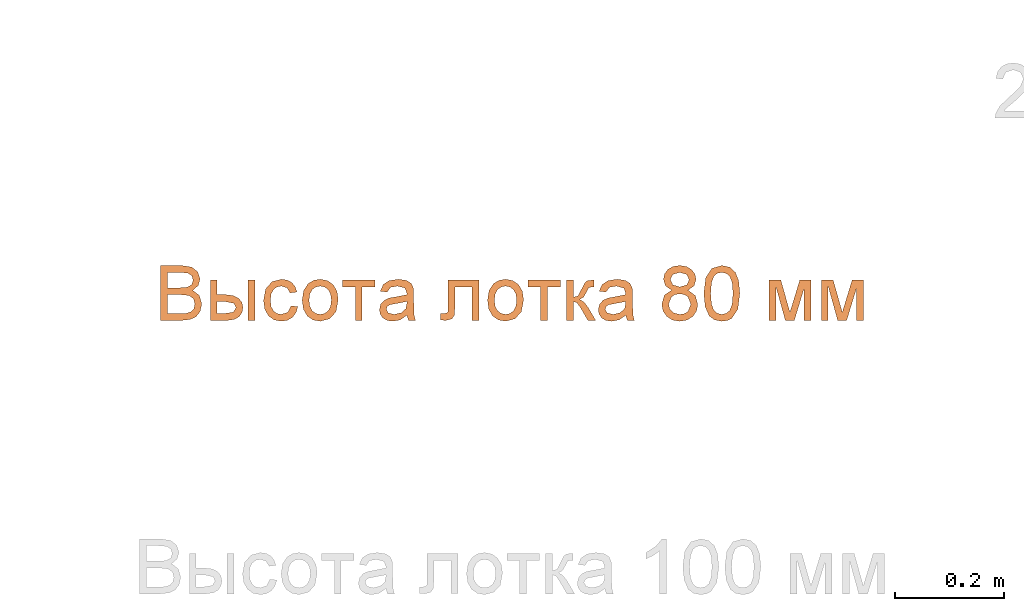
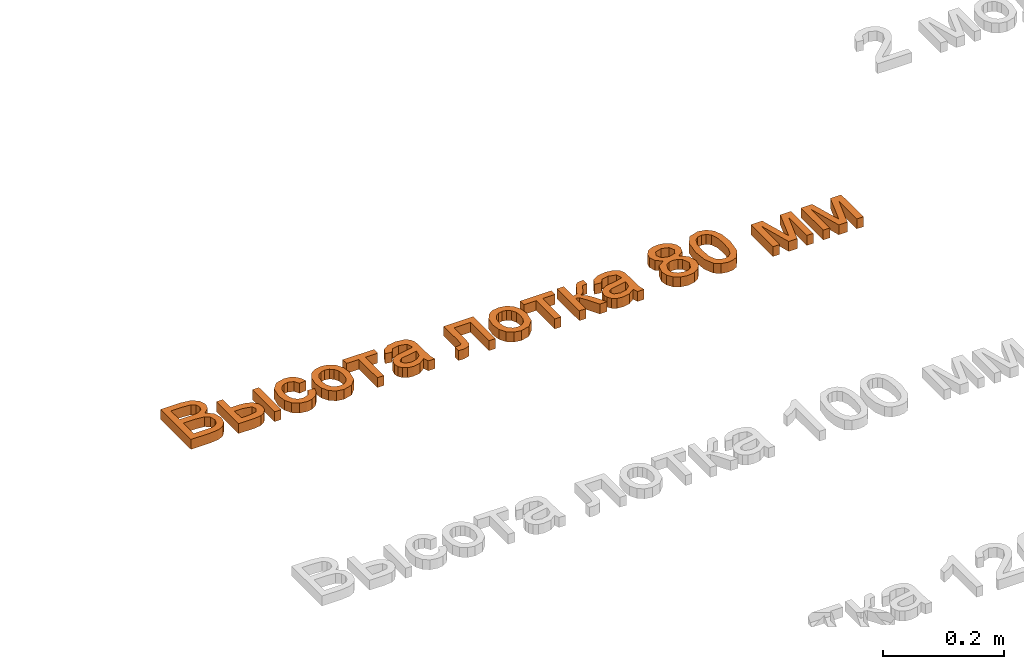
# One storey, part 20 of 71: 1 proxy.
"""IFC2X3 building model written with IfcOpenShell, lengths in millimetres."""

from ifc_helpers import new_model, entity, si_unit, converted_unit, derived_unit, direction, frame, frame_2d, origin, place, context, subcontext, project, spatial, polyline, rectangle, outline, extrude, element, save


model = new_model("IFC2X3")

# Units and contexts
model_context = context("Model", 3, precision=0.01, world=origin(), true_north=direction((6.12303176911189e-17, 1.0)))
body_context = subcontext(model_context, "Body", "Model", "MODEL_VIEW")
ifc_project = project(units=[si_unit("LENGTHUNIT", "METRE", prefix="MILLI"), si_unit("AREAUNIT", "SQUARE_METRE"), si_unit("VOLUMEUNIT", "CUBIC_METRE"), converted_unit("PLANEANGLEUNIT", "DEGREE", entity("IfcRatioMeasure", 0.0174532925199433), si_unit("PLANEANGLEUNIT", "RADIAN"), dimensions=[0, 0, 0, 0, 0, 0, 0]), si_unit("MASSUNIT", "GRAM", prefix="KILO"), derived_unit("MASSDENSITYUNIT", [(si_unit("MASSUNIT", "GRAM", prefix="KILO"), 1), (si_unit("LENGTHUNIT", "METRE"), -3)]), si_unit("TIMEUNIT", "SECOND"), si_unit("FREQUENCYUNIT", "HERTZ"), si_unit("THERMODYNAMICTEMPERATUREUNIT", "DEGREE_CELSIUS"), derived_unit("THERMALTRANSMITTANCEUNIT", [(si_unit("MASSUNIT", "GRAM", prefix="KILO"), 1), (si_unit("THERMODYNAMICTEMPERATUREUNIT", "KELVIN"), -1), (si_unit("TIMEUNIT", "SECOND"), -3)]), derived_unit("VOLUMETRICFLOWRATEUNIT", [(si_unit("LENGTHUNIT", "METRE"), 3), (si_unit("TIMEUNIT", "SECOND"), -1)]), si_unit("ELECTRICCURRENTUNIT", "AMPERE"), si_unit("ELECTRICVOLTAGEUNIT", "VOLT"), si_unit("POWERUNIT", "WATT"), si_unit("FORCEUNIT", "NEWTON", prefix="KILO"), si_unit("ILLUMINANCEUNIT", "LUX"), si_unit("LUMINOUSFLUXUNIT", "LUMEN"), si_unit("LUMINOUSINTENSITYUNIT", "CANDELA"), derived_unit("USERDEFINED", [(si_unit("MASSUNIT", "GRAM", prefix="KILO"), -1), (si_unit("LENGTHUNIT", "METRE"), -2), (si_unit("TIMEUNIT", "SECOND"), 3), (si_unit("LUMINOUSFLUXUNIT", "LUMEN"), 1)]), derived_unit("LINEARVELOCITYUNIT", [(si_unit("LENGTHUNIT", "METRE"), 1), (si_unit("TIMEUNIT", "SECOND"), -1)]), si_unit("PRESSUREUNIT", "PASCAL"), derived_unit("USERDEFINED", [(si_unit("LENGTHUNIT", "METRE"), -2), (si_unit("MASSUNIT", "GRAM", prefix="KILO"), 1), (si_unit("TIMEUNIT", "SECOND"), -2)])], contexts=[model_context])

# Site, building, storey
site_placement = place(None, origin())
site = spatial("IfcSite", under=ifc_project, at=site_placement, Name="Default", CompositionType="ELEMENT")
building_placement = place(site_placement, origin())
building = spatial("IfcBuilding", under=site, at=building_placement, Name="Наименование здания", CompositionType="ELEMENT")
storey_placement = place(building_placement, origin())
storey = spatial("IfcBuildingStorey", under=building, at=storey_placement, Name="Этаж 01", CompositionType="ELEMENT", Elevation=0.0)

# Proxy
proxy_placement = place(storey_placement, origin())
element("IfcBuildingElementProxy", 1, at=proxy_placement, inside=storey, Name="Текст модели:100 мм Arial", ObjectType="Текст модели:100 мм Arial", context=body_context, shape_type="SweptSolid", body=[
    extrude(outline(polyline([(-52.8068326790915, -48.6909338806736), (-14.7678343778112, -48.6909338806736), (1.33313427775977, -46.9618885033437), (12.2592295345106, -41.860591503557), (19.5800812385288, -32.2466086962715), (22.5353999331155, -18.7453394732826), (18.2066551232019, -3.12261741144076), (5.83355735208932, 6.24611073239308), (16.0238886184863, 15.1365922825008), (19.3961402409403, 26.8720279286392), (15.3862264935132, 39.7233722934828), (4.30071570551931, 48.8100575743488), (-14.4735287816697, 51.7653762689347), (-52.8068326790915, 51.7653762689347), (-52.8068326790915, -48.6909338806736)]), holes=[polyline([(-40.2497939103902, 10.9550002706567), (-40.2497939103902, 39.208337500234), (-19.059790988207, 39.208337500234), (-2.92203413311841, 37.8962250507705), (4.31297843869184, 33.0524454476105), (6.83910147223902, 24.8609396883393), (4.12903744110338, 16.6816966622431), (-3.92757825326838, 12.0341207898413), (-17.3184828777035, 10.9550002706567), (-40.2497939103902, 10.9550002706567)]), polyline([(-40.2497939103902, -36.1338951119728), (-40.2497939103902, -1.60203849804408), (-15.7243275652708, -1.60203849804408), (-0.211970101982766, -3.28203294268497), (7.57486546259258, -9.10683119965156), (9.97836116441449, -18.8679668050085), (7.93048472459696, -27.3292526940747), (2.70656039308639, -32.9087962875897), (-5.17837703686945, -35.6433857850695), (-14.4980542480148, -36.1338951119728), (-40.2497939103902, -36.1338951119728)])]), frame((1928.33160760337, -11917.8794073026, 0.0)), (0.0, 0.0, 1.0), 20.0),
    extrude(outline(polyline([(-42.3988715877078, -34.5139341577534), (31.3737311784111, -34.5139341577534), (31.3737311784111, -3.73447389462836), (29.6538828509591, 9.31613988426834), (24.4943378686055, 18.2526066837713), (16.9129030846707, 23.4121516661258), (7.92738535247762, 25.1319999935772), (-1.94104916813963, 23.0810578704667), (-9.42438208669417, 16.9282315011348), (-14.1424686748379, 6.98622058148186), (-15.7151642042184, -6.43227519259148), (-15.7151642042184, -21.956895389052), (-42.3988715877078, -21.956895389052), (-42.3988715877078, -34.5139341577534)]), holes=[polyline([(18.8166924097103, -21.956895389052), (-3.15812543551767, -21.956895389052), (-3.15812543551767, -7.41329384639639), (0.226388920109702, 8.88387853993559), (7.95191081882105, 12.5749612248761), (16.1802047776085, 7.59629155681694), (18.8166924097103, -9.05650009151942), (18.8166924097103, -21.956895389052)])]), frame((2001.07724015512, -11935.1966100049, 0.0), z_axis=(0.0, 0.0, 1.0), x_axis=(0.0, -1.0, 0.0)), (0.0, 0.0, 1.0), 20.0),
    extrude(outline(polyline([(0.267683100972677, -20.7200562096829), (-4.02278247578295, -32.6253015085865), (7.51957889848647, -34.5647704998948), (18.0242916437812, -32.5240986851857), (26.8500141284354, -26.8719753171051), (33.3554047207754, -17.9770896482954), (37.2076783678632, -4.95154901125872), (35.3403176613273, 7.7141574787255), (27.6846262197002, 19.1676933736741), (14.1719076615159, 28.5567222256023), (-6.16200624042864, 34.5864889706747), (-23.4110955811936, 30.2307841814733), (-35.1302422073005, 17.0254849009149), (-38.5714296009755, 6.87231136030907), (-38.3156698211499, -2.77330902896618), (-34.4593562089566, -11.5597521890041), (-27.0988821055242, -19.1353940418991), (-20.0099089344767, -8.65257858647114), (-25.7552259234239, 0.801697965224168), (-23.9806627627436, 11.2483121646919), (-18.9208808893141, 17.7794646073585), (-11.8538304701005, 21.4126833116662), (-2.81100512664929, 21.5312059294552), (8.1761015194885, 17.5182701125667), (18.0468481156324, 10.9639331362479), (23.3470531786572, 3.65828147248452), (24.605329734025, -4.07586677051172), (22.3502908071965, -11.9156934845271), (13.555852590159, -20.7200562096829), (0.267683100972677, -20.7200562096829)])), frame((2095.7588113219, -11930.2595425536, 0.0), z_axis=(0.0, 0.0, -1.0), x_axis=(-0.453109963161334, -0.891454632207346, 0.0)), (0.0, 0.0, -1.0), 20.0),
    extrude(outline(polyline([(-2.34029740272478, -31.6984909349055), (14.2731811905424, -31.6984909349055), (27.1869525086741, -26.5873672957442), (35.9909592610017, -17.181127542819), (40.2751441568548, -4.29577920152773), (38.1491713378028, 13.1690451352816), (27.2514955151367, 26.6485362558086), (5.67797919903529, 33.7446283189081), (-10.1280544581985, 33.6081083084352), (-22.8059382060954, 28.3900569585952), (-31.6389568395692, 18.9754531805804), (-35.9103951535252, 6.24927588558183), (-35.5406401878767, -5.9710903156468), (-30.8535887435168, -16.783523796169), (-19.5870121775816, -26.5692340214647), (-2.34029740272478, -31.6984909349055)]), holes=[polyline([(-0.642949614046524, -19.256672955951), (-11.6948097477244, -16.2599663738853), (-19.0989004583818, -10.8341828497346), (-22.9822632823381, -3.67356758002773), (-23.4719397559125, 4.52763423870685), (-20.7783225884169, 12.2046648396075), (-15.0781786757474, 18.0357050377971), (-6.56600936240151, 21.286328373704), (4.56368400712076, 21.2221083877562), (15.8675929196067, 18.1905150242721), (23.396189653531, 12.7474982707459), (27.3267847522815, 5.59272509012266), (27.8366887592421, -2.57413755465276), (25.1317228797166, -10.3331599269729), (19.4311586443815, -16.1672368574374), (10.8134498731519, -19.3753979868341), (-0.642949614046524, -19.256672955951)])]), frame((2166.2337114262, -11927.6561924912, 0.0), z_axis=(0.0, 0.0, 1.0), x_axis=(0.137105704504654, -0.990556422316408, 0.0)), (0.0, 0.0, 1.0), 20.0),
    extrude(outline(polyline([(-24.7216700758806, -29.8229670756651), (-12.1646313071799, -29.8229670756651), (-12.1646313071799, -6.27851938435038), (49.0509326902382, -6.27851938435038), (49.0509326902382, 6.27851938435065), (-12.1646313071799, 6.27851938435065), (-12.1646313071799, 29.8229670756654), (-24.7216700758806, 29.8229670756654), (-24.7216700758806, -29.8229670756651)])), frame((2238.10926937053, -11917.519408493, 0.0), z_axis=(0.0, 0.0, 1.0), x_axis=(0.0, -1.0, 0.0)), (0.0, 0.0, 1.0), 20.0),
    extrude(outline(polyline([(32.0508237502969, 7.88266535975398), (41.978034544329, 7.88266535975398), (45.9489188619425, 19.7953183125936), (35.1414436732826, 20.7608946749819), (14.2438893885, 27.0545912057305), (-0.577126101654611, 31.994929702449), (-11.1945882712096, 34.8877809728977), (-20.4974705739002, 33.9299602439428), (-28.5323068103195, 27.5470739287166), (-35.4619652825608, 13.8157249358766), (-38.3044049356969, -2.69989645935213), (-34.946215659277, -15.3493345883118), (-25.0306383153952, -24.3807697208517), (-19.5706723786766, -12.9644773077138), (-25.7868125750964, -4.50695904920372), (-24.061184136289, 8.30922519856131), (-16.2279943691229, 20.3304570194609), (-6.33956174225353, 20.6794605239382), (-3.71040200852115, 19.7255176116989), (-6.5024300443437, -2.30048133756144), (-8.14662433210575, -13.2049019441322), (-7.01817966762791, -22.8490321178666), (-2.17478658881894, -31.1204151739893), (6.48825595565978, -36.5416029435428), (15.0010331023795, -37.7020395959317), (22.9495879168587, -35.3200906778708), (29.637852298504, -29.3899394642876), (34.3697581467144, -19.9057692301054), (36.2737661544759, -6.36055543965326), (32.0508237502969, 7.88266535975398)]), holes=[polyline([(8.22551784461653, 15.8244339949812), (11.5759514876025, 14.630066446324), (20.1614376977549, 9.6742166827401), (24.4696920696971, -0.396473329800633), (23.3024692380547, -13.398792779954), (17.2491973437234, -22.9498553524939), (9.62153186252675, -24.3497471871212), (5.58084684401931, -21.1932043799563), (3.98706417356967, -15.5044472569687), (5.47226797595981, -4.61166010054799), (8.22551784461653, 15.8244339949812)])]), frame((2308.39502738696, -11929.2391985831, 0.0), z_axis=(0.0, 0.0, 1.0), x_axis=(0.316227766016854, -0.948683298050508, 0.0)), (0.0, 0.0, 1.0), 20.0),
    extrude(outline(polyline([(-49.3689973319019, 12.5447760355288), (-49.3689973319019, -43.9618984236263), (24.3300290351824, -43.9618984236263), (24.3300290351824, -31.4048596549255), (-36.8119585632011, -31.4048596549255), (-36.8119585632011, -0.0122627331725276), (-1.61791435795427, -0.0122627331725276), (14.6179443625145, 0.833865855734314), (21.4728122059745, 5.48144172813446), (24.403605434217, 16.4688506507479), (23.7659433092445, 26.6714446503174), (11.8465666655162, 26.6714446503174), (11.8465666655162, 21.0551128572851), (11.0740144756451, 15.37746739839), (8.62146784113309, 13.1088617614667), (-2.32915288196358, 12.5447760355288), (-49.3689973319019, 12.5447760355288)])), frame((2413.89554939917, -11942.1667357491, 0.0), z_axis=(0.0, 0.0, -1.0), x_axis=(0.0, -1.0, 0.0)), (0.0, 0.0, -1.0), 20.0),
    extrude(outline(polyline([(-2.34029740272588, -31.698490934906), (14.2731811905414, -31.698490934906), (27.1869525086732, -26.5873672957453), (35.9909592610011, -17.1811275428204), (40.2751441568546, -4.29577920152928), (38.1491713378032, 13.1690451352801), (27.2514955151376, 26.6485362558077), (5.6779791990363, 33.7446283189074), (-10.1280544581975, 33.608108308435), (-22.8059382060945, 28.3900569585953), (-31.6389568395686, 18.9754531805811), (-35.910395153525, 6.2492758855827), (-35.5406401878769, -5.97109031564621), (-30.8535887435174, -16.7835237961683), (-19.5870121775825, -26.5692340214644), (-2.34029740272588, -31.698490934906)]), holes=[polyline([(-0.64294961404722, -19.2566729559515), (-11.694809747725, -16.2599663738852), (-19.0989004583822, -10.8341828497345), (-22.9822632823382, -3.67356758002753), (-23.4719397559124, 4.52763423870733), (-20.7783225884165, 12.2046648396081), (-15.0781786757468, 18.0357050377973), (-6.56600936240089, 21.2863283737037), (4.56368400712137, 21.2221083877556), (15.8675929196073, 18.1905150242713), (23.3961896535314, 12.7474982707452), (27.3267847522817, 5.59272509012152), (27.836688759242, -2.57413755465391), (25.1317228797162, -10.3331599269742), (19.431158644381, -16.1672368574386), (10.8134498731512, -19.3753979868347), (-0.64294961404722, -19.2566729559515)])]), frame((2505.27375818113, -11927.6561924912, 0.0), z_axis=(0.0, 0.0, 1.0), x_axis=(0.137105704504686, -0.990556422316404, 0.0)), (0.0, 0.0, 1.0), 20.0),
    extrude(outline(polyline([(-24.7216700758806, -29.8229670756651), (-12.1646313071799, -29.8229670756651), (-12.1646313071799, -6.27851938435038), (49.0509326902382, -6.27851938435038), (49.0509326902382, 6.27851938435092), (-12.1646313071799, 6.27851938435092), (-12.1646313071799, 29.8229670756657), (-24.7216700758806, 29.8229670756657), (-24.7216700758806, -29.8229670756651)])), frame((2577.14931612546, -11917.519408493, 0.0), z_axis=(0.0, 0.0, 1.0), x_axis=(0.0, -1.0, 0.0)), (0.0, 0.0, 1.0), 20.0),
    extrude(outline(polyline([(-30.3295712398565, -29.5353037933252), (43.4430315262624, -29.5353037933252), (43.4430315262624, -16.9782650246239), (8.91117491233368, -16.9782650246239), (11.2288314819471, -10.2337617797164), (20.8060260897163, -3.61188586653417), (43.4430315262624, 9.55828956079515), (43.4430315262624, 23.8321109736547), (20.3155167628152, 10.3921554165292), (10.0209522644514, 2.61758258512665), (5.13425309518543, -5.30414304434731), (0.756457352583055, 1.79597946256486), (-8.18307513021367, 6.86048826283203), (-16.4481572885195, 11.1769703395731), (-17.7725324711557, 17.3083369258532), (-17.6989560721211, 20.6928512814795), (-30.3295712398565, 20.6928512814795), (-30.3295712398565, 18.2893555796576), (-29.3730780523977, 9.10456843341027), (-25.6819953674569, 4.0523223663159), (-14.3389671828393, -1.67437402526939), (-1.19331722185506, -8.56603006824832), (1.06302568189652, -16.9782650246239), (-30.3295712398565, -16.9782650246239), (-30.3295712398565, -29.5353037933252)])), frame((2647.49499591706, -11923.127309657, 0.0), z_axis=(0.0, 0.0, 1.0), x_axis=(0.0, -1.0, 0.0)), (0.0, 0.0, 1.0), 20.0),
    extrude(rectangle(XDim=73.7726027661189, YDim=12.5570387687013, at=frame_2d((1.08357767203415e-12, 0.0), x_axis=(1.0, 0.0))), frame((2041.90553860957, -11929.6840398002, 0.0), z_axis=(0.0, 0.0, 1.0), x_axis=(0.0, -1.0, 0.0)), (0.0, 0.0, 1.0), 20.0),
    extrude(outline(polyline([(32.050823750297, 7.8826653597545), (41.9780345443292, 7.8826653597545), (45.9489188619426, 19.7953183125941), (35.1414436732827, 20.7608946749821), (14.2438893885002, 27.0545912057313), (-0.577126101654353, 31.9949297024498), (-11.1945882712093, 34.8877809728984), (-20.4974705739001, 33.9299602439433), (-28.5323068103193, 27.5470739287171), (-35.4619652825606, 13.8157249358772), (-38.3044049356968, -2.69989645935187), (-34.9462156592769, -15.3493345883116), (-25.0306383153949, -24.380769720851), (-19.5706723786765, -12.9644773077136), (-25.7868125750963, -4.50695904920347), (-24.0611841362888, 8.30922519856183), (-16.2279943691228, 20.3304570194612), (-6.33956174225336, 20.6794605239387), (-3.7104020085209, 19.7255176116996), (-6.50243004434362, -2.30048133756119), (-8.14662433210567, -13.204901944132), (-7.01817966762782, -22.8490321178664), (-2.17478658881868, -31.1204151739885), (6.48825595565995, -36.5416029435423), (15.0010331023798, -37.702039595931), (22.9495879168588, -35.3200906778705), (29.6378522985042, -29.3899394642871), (34.3697581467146, -19.9057692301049), (36.273766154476, -6.360555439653), (32.050823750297, 7.8826653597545)]), holes=[polyline([(8.2255178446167, 15.8244339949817), (11.5759514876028, 14.6300664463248), (20.1614376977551, 9.67421668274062), (24.4696920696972, -0.396473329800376), (23.3024692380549, -13.3987927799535), (17.2491973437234, -22.9498553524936), (9.62153186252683, -24.349747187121), (5.58084684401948, -21.1932043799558), (3.98706417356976, -15.5044472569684), (5.47226797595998, -4.61166010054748), (8.2255178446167, 15.8244339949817)])]), frame((2708.65063813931, -11929.2391985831, 0.0), z_axis=(0.0, 0.0, 1.0), x_axis=(0.316227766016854, -0.948683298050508, 0.0)), (0.0, 0.0, 1.0), 20.0),
    extrude(outline(polyline([(10.1224324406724, -11.2212127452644), (26.4477736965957, -11.2212127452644), (39.6861381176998, -0.0909413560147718), (44.6322314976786, 11.3078156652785), (44.5856416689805, 23.4168603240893), (39.6073830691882, 34.8346290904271), (29.7584701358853, 44.1595584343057), (17.4236057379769, 49.7956565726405), (4.98749274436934, 50.1469317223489), (-6.20047708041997, 45.7236060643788), (-14.7909119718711, 37.0359017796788), (-20.0781666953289, 21.0056847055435), (-14.5070621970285, 5.37692494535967), (-28.0684052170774, 5.15563707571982), (-37.7221714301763, -2.60845010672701), (-41.5236361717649, -11.9357006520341), (-41.0036870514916, -22.2232653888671), (-36.1916154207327, -32.1870777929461), (-27.1167126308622, -40.5430713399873), (-16.0503295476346, -45.8123091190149), (-5.18246445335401, -46.570678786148), (4.3845330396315, -43.2361071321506), (11.5483133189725, -36.2265209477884), (15.2516244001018, -24.0826582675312), (10.1224324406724, -11.2212127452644)]), holes=[polyline([(1.34077476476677, -28.9039041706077), (-7.53771017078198, -33.9815875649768), (-20.241535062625, -30.0339976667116), (-28.5905650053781, -19.690281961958), (-26.9800933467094, -9.13787919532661), (-18.1108932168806, -3.876489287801), (-5.45128168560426, -7.82385811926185), (3.15927028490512, -18.2403048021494), (1.34077476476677, -28.9039041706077)]), polyline([(29.0262968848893, 6.56051660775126), (17.1806533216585, -1.51571690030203), (9.68494123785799, -1.27757268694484), (1.95268767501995, 2.32885586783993), (-4.46267094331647, 8.27886886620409), (-7.64161156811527, 15.301055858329), (-4.59707955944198, 29.692946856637), (7.31333657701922, 37.7994665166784), (14.8367372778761, 37.4872096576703), (22.6595729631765, 33.8012523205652), (30.3730358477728, 25.586409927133), (32.5711030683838, 15.5727469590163), (29.0262968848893, 6.56051660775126)])]), frame((2825.14980991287, -11914.8893077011, 0.0), z_axis=(0.0, 0.0, 1.0), x_axis=(-0.829266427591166, -0.558853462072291, 0.0)), (0.0, 0.0, 1.0), 20.0),
    extrude(outline(polyline([(-7.02884310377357, -33.349067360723), (17.532380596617, -33.349067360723), (35.1984171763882, -27.6137612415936), (43.3439841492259, -18.487651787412), (47.0516941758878, -5.75150665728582), (46.7162020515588, 4.48638208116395), (43.4465778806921, 13.0955287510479), (27.9444305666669, 25.6659118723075), (-0.314338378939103, 32.2325535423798), (-24.0296505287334, 32.3678288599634), (-39.414302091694, 28.0260881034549), (-49.7293680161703, 18.9002174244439), (-54.4436715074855, 4.63998875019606), (-50.867658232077, -14.130105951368), (-35.4058547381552, -26.7333390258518), (-7.02884310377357, -33.349067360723)]), holes=[polyline([(-5.77428774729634, -20.8548320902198), (-25.0157644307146, -17.3562860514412), (-36.7257089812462, -11.5717922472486), (-41.096258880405, -4.77599682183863), (-41.9669219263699, 3.21464792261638), (-39.2244253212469, 11.2791292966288), (-32.8654063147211, 17.2229259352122), (-20.969837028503, 20.2947501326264), (-1.61768958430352, 19.7433141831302), (17.8514140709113, 16.2707701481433), (28.7803640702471, 10.7141596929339), (33.5546988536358, 3.61815959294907), (34.5599568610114, -4.472553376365), (31.9421230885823, -12.1923199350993), (25.8471825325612, -18.1754808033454), (14.0250679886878, -21.402747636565), (-5.77428774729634, -20.8548320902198)])]), frame((2902.99200506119, -11920.7471642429, 0.0), z_axis=(0.0, 0.0, 1.0), x_axis=(0.101851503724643, -0.994799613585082, 0.0)), (0.0, 0.0, 1.0), 20.0),
    extrude(outline(polyline([(-40.5839870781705, -38.4502715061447), (33.1886156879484, -38.4502715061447), (33.1886156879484, -25.8932327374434), (-29.0570178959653, -25.8932327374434), (33.1886156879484, -8.62730443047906), (33.1886156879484, 7.85380895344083), (-26.2120637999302, 25.9045521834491), (33.1886156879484, 25.9045521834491), (33.1886156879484, 38.4615909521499), (-40.5839870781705, 38.4615909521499), (-40.5839870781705, 17.7620973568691), (18.4733358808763, -0.190544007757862), (-40.5839870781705, -16.8433356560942), (-40.5839870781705, -38.4502715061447)])), frame((3026.84260730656, -11933.3817254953, 0.0), z_axis=(0.0, 0.0, 1.0), x_axis=(0.0, -1.0, 0.0)), (0.0, 0.0, 1.0), 20.0),
    extrude(outline(polyline([(-40.5839870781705, -38.4502715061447), (33.1886156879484, -38.4502715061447), (33.1886156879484, -25.893232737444), (-29.0570178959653, -25.893232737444), (33.1886156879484, -8.6273044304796), (33.1886156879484, 7.85380895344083), (-26.2120637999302, 25.9045521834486), (33.1886156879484, 25.9045521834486), (33.1886156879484, 38.4615909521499), (-40.5839870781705, 38.4615909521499), (-40.5839870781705, 17.7620973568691), (18.4733358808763, -0.190544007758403), (-40.5839870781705, -16.8433356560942), (-40.5839870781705, -38.4502715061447)])), frame((3122.59002791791, -11933.3817254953, 0.0), z_axis=(0.0, 0.0, 1.0), x_axis=(0.0, -1.0, 0.0)), (0.0, 0.0, 1.0), 20.0),
])

save(model, "model.ifc")
